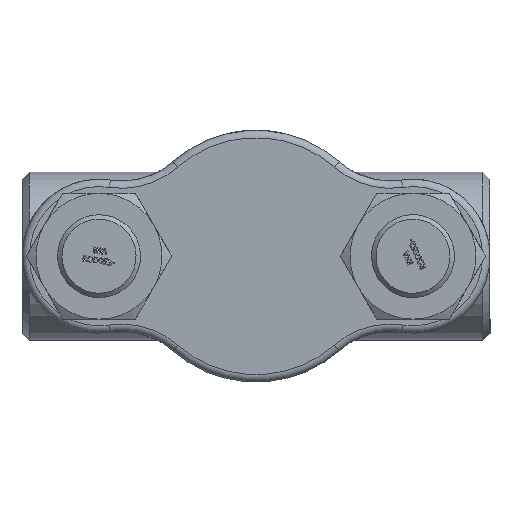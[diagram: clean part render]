
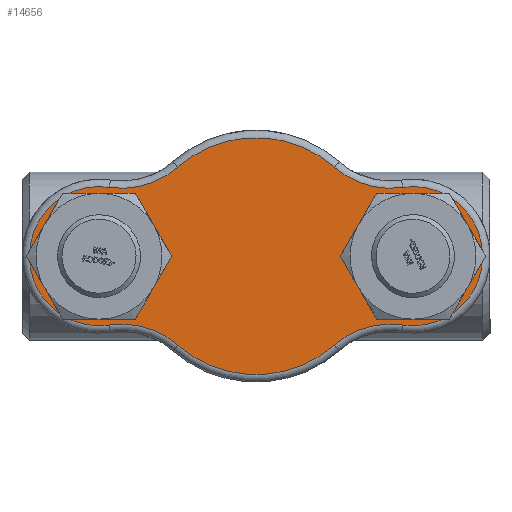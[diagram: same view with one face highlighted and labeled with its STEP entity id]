
A CAD part, front view. The second image highlights one B-rep face of the part: STEP entity #14656.
In plain terms, the highlighted planar face has unit normal (0, -1, 0) as drawn and (0, 0, -1) by its records, which use the part's own axes.
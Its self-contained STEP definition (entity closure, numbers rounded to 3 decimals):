
#3848=PLANE('',#15601);
#4237=FACE_BOUND('',#5184,.T.);
#4238=FACE_BOUND('',#5185,.T.);
#4327=FACE_OUTER_BOUND('',#5183,.T.);
#5183=EDGE_LOOP('',(#10091,#10092,#10093,#10094,#10095,#10096,#10097,#10098));
#5184=EDGE_LOOP('',(#10099));
#5185=EDGE_LOOP('',(#10100));
#6127=CIRCLE('',#15600,34.5);
#6128=CIRCLE('',#15602,47.);
#6129=CIRCLE('',#15603,57.);
#6130=CIRCLE('',#15604,80.);
#6131=CIRCLE('',#15605,57.);
#6132=CIRCLE('',#15606,47.);
#6133=CIRCLE('',#15607,57.);
#6134=CIRCLE('',#15608,80.);
#6135=CIRCLE('',#15609,57.);
#6136=CIRCLE('',#15610,34.5);
#6311=VERTEX_POINT('',#18966);
#6312=VERTEX_POINT('',#18969);
#6313=VERTEX_POINT('',#18970);
#6314=VERTEX_POINT('',#18972);
#6315=VERTEX_POINT('',#18974);
#6316=VERTEX_POINT('',#18976);
#6317=VERTEX_POINT('',#18978);
#6318=VERTEX_POINT('',#18980);
#6319=VERTEX_POINT('',#18982);
#6320=VERTEX_POINT('',#18985);
#7817=EDGE_CURVE('',#6311,#6311,#6127,.T.);
#7818=EDGE_CURVE('',#6312,#6313,#6128,.T.);
#7819=EDGE_CURVE('',#6314,#6312,#6129,.T.);
#7820=EDGE_CURVE('',#6315,#6314,#6130,.T.);
#7821=EDGE_CURVE('',#6316,#6315,#6131,.T.);
#7822=EDGE_CURVE('',#6317,#6316,#6132,.T.);
#7823=EDGE_CURVE('',#6318,#6317,#6133,.T.);
#7824=EDGE_CURVE('',#6319,#6318,#6134,.T.);
#7825=EDGE_CURVE('',#6313,#6319,#6135,.T.);
#7826=EDGE_CURVE('',#6320,#6320,#6136,.T.);
#10091=ORIENTED_EDGE('',*,*,#7818,.F.);
#10092=ORIENTED_EDGE('',*,*,#7819,.F.);
#10093=ORIENTED_EDGE('',*,*,#7820,.F.);
#10094=ORIENTED_EDGE('',*,*,#7821,.F.);
#10095=ORIENTED_EDGE('',*,*,#7822,.F.);
#10096=ORIENTED_EDGE('',*,*,#7823,.F.);
#10097=ORIENTED_EDGE('',*,*,#7824,.F.);
#10098=ORIENTED_EDGE('',*,*,#7825,.F.);
#10099=ORIENTED_EDGE('',*,*,#7826,.F.);
#10100=ORIENTED_EDGE('',*,*,#7817,.F.);
#14656=ADVANCED_FACE('',(#4327,#4237,#4238),#3848,.F.);
#15600=AXIS2_PLACEMENT_3D('',#18967,#16308,#16309);
#15601=AXIS2_PLACEMENT_3D('',#18968,#16310,#16311);
#15602=AXIS2_PLACEMENT_3D('',#18971,#16312,#16313);
#15603=AXIS2_PLACEMENT_3D('',#18973,#16314,#16315);
#15604=AXIS2_PLACEMENT_3D('',#18975,#16316,#16317);
#15605=AXIS2_PLACEMENT_3D('',#18977,#16318,#16319);
#15606=AXIS2_PLACEMENT_3D('',#18979,#16320,#16321);
#15607=AXIS2_PLACEMENT_3D('',#18981,#16322,#16323);
#15608=AXIS2_PLACEMENT_3D('',#18983,#16324,#16325);
#15609=AXIS2_PLACEMENT_3D('',#18984,#16326,#16327);
#15610=AXIS2_PLACEMENT_3D('',#18986,#16328,#16329);
#16308=DIRECTION('center_axis',(0.,0.,-1.));
#16309=DIRECTION('ref_axis',(1.,0.,0.));
#16310=DIRECTION('center_axis',(0.,0.,1.));
#16311=DIRECTION('ref_axis',(1.,0.,0.));
#16312=DIRECTION('center_axis',(0.,0.,1.));
#16313=DIRECTION('ref_axis',(-1.,0.,0.));
#16314=DIRECTION('center_axis',(0.,0.,-1.));
#16315=DIRECTION('ref_axis',(0.282,-0.959,0.));
#16316=DIRECTION('center_axis',(0.,0.,1.));
#16317=DIRECTION('ref_axis',(0.,1.,0.));
#16318=DIRECTION('center_axis',(0.,0.,-1.));
#16319=DIRECTION('ref_axis',(-0.282,-0.959,0.));
#16320=DIRECTION('center_axis',(0.,0.,1.));
#16321=DIRECTION('ref_axis',(1.,0.,0.));
#16322=DIRECTION('center_axis',(0.,0.,-1.));
#16323=DIRECTION('ref_axis',(-0.282,0.959,0.));
#16324=DIRECTION('center_axis',(0.,0.,1.));
#16325=DIRECTION('ref_axis',(0.,-1.,0.));
#16326=DIRECTION('center_axis',(0.,0.,-1.));
#16327=DIRECTION('ref_axis',(0.282,0.959,0.));
#16328=DIRECTION('center_axis',(0.,0.,-1.));
#16329=DIRECTION('ref_axis',(1.,0.,0.));
#18966=CARTESIAN_POINT('',(71.5,0.,0.));
#18967=CARTESIAN_POINT('Origin',(106.,0.,0.));
#18968=CARTESIAN_POINT('Origin',(0.,0.,0.));
#18969=CARTESIAN_POINT('',(-99.002,46.476,0.));
#18970=CARTESIAN_POINT('',(-99.002,-46.476,0.));
#18971=CARTESIAN_POINT('Origin',(-106.,0.,0.));
#18972=CARTESIAN_POINT('',(-52.855,60.053,0.));
#18973=CARTESIAN_POINT('Origin',(-90.514,102.841,0.));
#18974=CARTESIAN_POINT('',(52.855,60.053,0.));
#18975=CARTESIAN_POINT('Origin',(0.,0.,0.));
#18976=CARTESIAN_POINT('',(99.002,46.476,0.));
#18977=CARTESIAN_POINT('Origin',(90.514,102.841,0.));
#18978=CARTESIAN_POINT('',(99.002,-46.476,0.));
#18979=CARTESIAN_POINT('Origin',(106.,0.,0.));
#18980=CARTESIAN_POINT('',(52.855,-60.053,0.));
#18981=CARTESIAN_POINT('Origin',(90.514,-102.841,0.));
#18982=CARTESIAN_POINT('',(-52.855,-60.053,0.));
#18983=CARTESIAN_POINT('Origin',(0.,0.,0.));
#18984=CARTESIAN_POINT('Origin',(-90.514,-102.841,0.));
#18985=CARTESIAN_POINT('',(-140.5,0.,0.));
#18986=CARTESIAN_POINT('Origin',(-106.,0.,0.));
